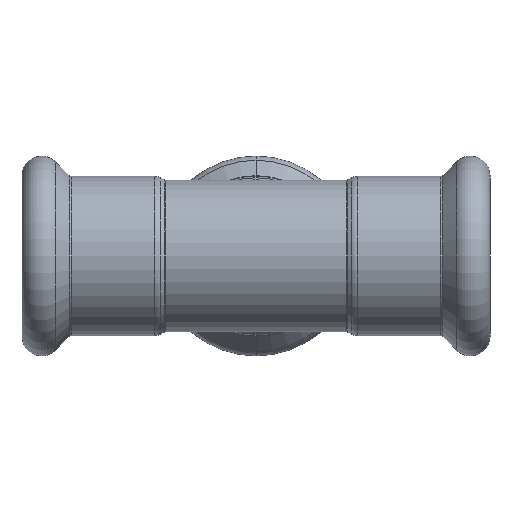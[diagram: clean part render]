
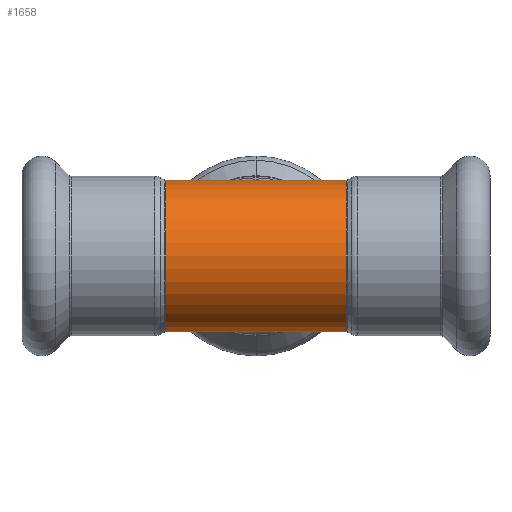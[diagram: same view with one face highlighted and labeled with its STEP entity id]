
A CAD part, front view. The second image highlights one B-rep face of the part: STEP entity #1658.
In plain terms, the highlighted cylindrical face has radius 12 mm (diameter 24 mm), a partial arc.
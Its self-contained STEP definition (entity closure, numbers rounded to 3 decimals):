
#24 = DIRECTION ( 'NONE',  ( 0., 0., 1. ) ) ;
#286 = VERTEX_POINT ( 'NONE', #2835 ) ;
#388 = DIRECTION ( 'NONE',  ( -1., 0., 0. ) ) ;
#392 = CARTESIAN_POINT ( 'NONE',  ( 27.146, 0., -12. ) ) ;
#441 = ORIENTED_EDGE ( 'NONE', *, *, #3433, .T. ) ;
#531 = CARTESIAN_POINT ( 'NONE',  ( -14.248, 0., 0. ) ) ;
#799 = CYLINDRICAL_SURFACE ( 'NONE', #1455, 12. ) ;
#933 = VERTEX_POINT ( 'NONE', #1573 ) ;
#997 = ORIENTED_EDGE ( 'NONE', *, *, #1441, .F. ) ;
#1074 = CARTESIAN_POINT ( 'NONE',  ( 0., 0., 12. ) ) ;
#1077 = DIRECTION ( 'NONE',  ( 0., 0., 1. ) ) ;
#1122 = CARTESIAN_POINT ( 'NONE',  ( 14.248, 0., -12. ) ) ;
#1129 = LINE ( 'NONE', #3314, #3297 ) ;
#1235 = VERTEX_POINT ( 'NONE', #2751 ) ;
#1270 = ORIENTED_EDGE ( 'NONE', *, *, #3134, .T. ) ;
#1280 = VERTEX_POINT ( 'NONE', #2742 ) ;
#1312 = CARTESIAN_POINT ( 'NONE',  ( 27.146, 0., 0. ) ) ;
#1333 = EDGE_CURVE ( 'NONE', #286, #933, #1129, .T. ) ;
#1441 = EDGE_CURVE ( 'NONE', #3203, #286, #3466, .T. ) ;
#1455 = AXIS2_PLACEMENT_3D ( 'NONE', #1312, #2153, #1077 ) ;
#1466 = CARTESIAN_POINT ( 'NONE',  ( 27.146, 0., 12. ) ) ;
#1517 = VECTOR ( 'NONE', #2818, 1000. ) ;
#1573 = CARTESIAN_POINT ( 'NONE',  ( -14.248, 0., -12. ) ) ;
#1658 = ADVANCED_FACE ( 'NONE', ( #2523 ), #799, .T. ) ;
#1665 = DIRECTION ( 'NONE',  ( -1., 0., 0. ) ) ;
#1859 = ORIENTED_EDGE ( 'NONE', *, *, #2120, .F. ) ;
#1879 = DIRECTION ( 'NONE',  ( -1., 0., 0. ) ) ;
#2120 = EDGE_CURVE ( 'NONE', #933, #1280, #3117, .T. ) ;
#2153 = DIRECTION ( 'NONE',  ( -1., 0., 0. ) ) ;
#2166 = LINE ( 'NONE', #1466, #2501 ) ;
#2172 = VECTOR ( 'NONE', #2918, 1000. ) ;
#2258 = EDGE_CURVE ( 'NONE', #3203, #1235, #2683, .T. ) ;
#2409 = AXIS2_PLACEMENT_3D ( 'NONE', #3032, #1665, #24 ) ;
#2497 = ORIENTED_EDGE ( 'NONE', *, *, #2258, .T. ) ;
#2501 = VECTOR ( 'NONE', #388, 1000. ) ;
#2523 = FACE_OUTER_BOUND ( 'NONE', #3066, .T. ) ;
#2582 = VERTEX_POINT ( 'NONE', #1074 ) ;
#2623 = ORIENTED_EDGE ( 'NONE', *, *, #1333, .F. ) ;
#2683 = CIRCLE ( 'NONE', #2409, 12. ) ;
#2742 = CARTESIAN_POINT ( 'NONE',  ( -14.248, 0., 12. ) ) ;
#2751 = CARTESIAN_POINT ( 'NONE',  ( 14.248, 0., 12. ) ) ;
#2818 = DIRECTION ( 'NONE',  ( -1., 0., 0. ) ) ;
#2835 = CARTESIAN_POINT ( 'NONE',  ( 0., 0., -12. ) ) ;
#2890 = LINE ( 'NONE', #3440, #2172 ) ;
#2918 = DIRECTION ( 'NONE',  ( -1., 0., 0. ) ) ;
#3032 = CARTESIAN_POINT ( 'NONE',  ( 14.248, 0., 0. ) ) ;
#3066 = EDGE_LOOP ( 'NONE', ( #997, #2497, #1270, #441, #1859, #2623 ) ) ;
#3117 = CIRCLE ( 'NONE', #3173, 12. ) ;
#3134 = EDGE_CURVE ( 'NONE', #1235, #2582, #2890, .T. ) ;
#3173 = AXIS2_PLACEMENT_3D ( 'NONE', #531, #1879, #3531 ) ;
#3203 = VERTEX_POINT ( 'NONE', #1122 ) ;
#3297 = VECTOR ( 'NONE', #3299, 1000. ) ;
#3299 = DIRECTION ( 'NONE',  ( -1., 0., 0. ) ) ;
#3314 = CARTESIAN_POINT ( 'NONE',  ( 27.146, 0., -12. ) ) ;
#3433 = EDGE_CURVE ( 'NONE', #2582, #1280, #2166, .T. ) ;
#3440 = CARTESIAN_POINT ( 'NONE',  ( 27.146, 0., 12. ) ) ;
#3466 = LINE ( 'NONE', #392, #1517 ) ;
#3531 = DIRECTION ( 'NONE',  ( 0., 0., 1. ) ) ;
